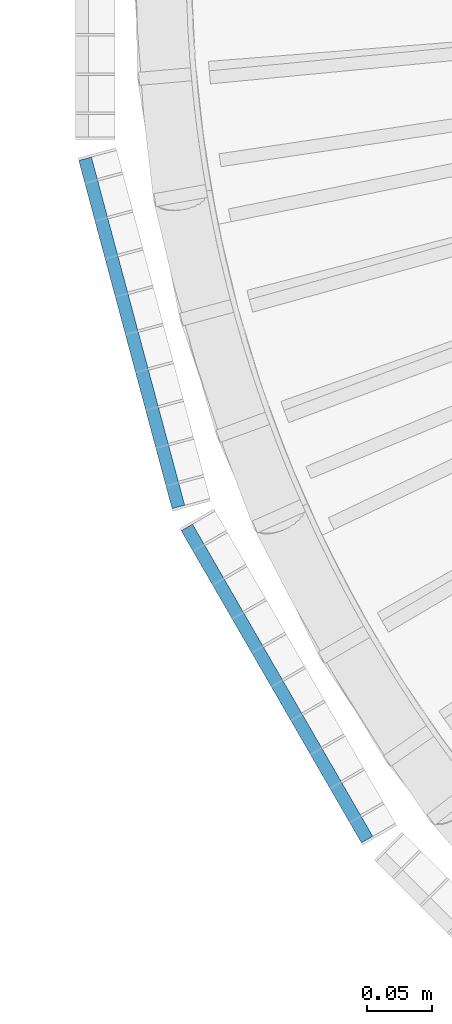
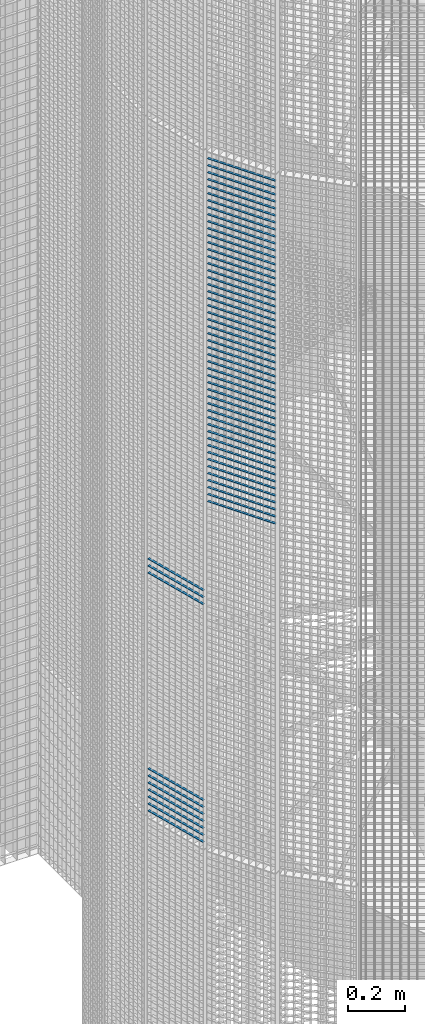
# One storey, part 350 of 1148: 60 beams, 2 elements without a shape of their own.
"""IFC2X3 building model written with IfcOpenShell, lengths in millimetres."""

import ifcopenshell
import ifcopenshell.guid

model = None  # the IFC model being written
_history = None  # IfcOwnerHistory: only IFC2X3 demands one
_inside = {}  # id of a spatial element -> (the spatial element, [elements in it])
_under = {}  # id of a project, library or spatial element -> (it, [spatial elements below it])
_declared = {}  # id of a project -> (the project, [libraries it declares])
_typed = {}  # id of a type object -> (the type object, [elements of that type])
_made_of = {}  # id of a material, layer set ... -> (it, [elements and type objects made of it])


def new_model(schema):
    """Start an empty IFC model of exactly this schema.

    Asked for "IFC4X3", IfcOpenShell would pick the latest addendum, in which some entities
    have other attributes; the version numbers below select the first issue.
    IFC2X3 requires an IfcOwnerHistory on every rooted entity: one is made here for all.
    """
    global model, _history
    if schema == "IFC4X3":
        model = ifcopenshell.file(schema_version=(4, 3, 0, 0))
    else:
        model = ifcopenshell.file(schema=schema)
    _inside.clear()
    _under.clear()
    _declared.clear()
    _typed.clear()
    _made_of.clear()
    _history = None
    if model.schema == "IFC2X3":
        org = make("IfcOrganization", Name="unknown")
        user = make(
            "IfcPersonAndOrganization",
            ThePerson=make("IfcPerson", FamilyName="unknown"),
            TheOrganization=org,
        )
        app = make(
            "IfcApplication",
            ApplicationDeveloper=org,
            Version="unknown",
            ApplicationFullName="unknown",
            ApplicationIdentifier="unknown",
        )
        _history = make(
            "IfcOwnerHistory",
            OwningUser=user,
            OwningApplication=app,
            ChangeAction="ADDED",
            CreationDate=0,
        )
    return model


def make(cls, **values):
    """One entity of the class cls with the attributes given. An attribute that is None is left unset."""
    return model.create_entity(
        cls, **{name: value for name, value in values.items() if value is not None}
    )


def rooted(cls, **values):
    """An entity with a GlobalId (a new one), such as an element, a storey or a relation."""
    return make(cls, GlobalId=ifcopenshell.guid.new(), OwnerHistory=_history, **values)


def si_unit(unit_type, name, prefix=None):
    """IfcSIUnit, for example si_unit("LENGTHUNIT", "METRE", prefix="MILLI")."""
    return make("IfcSIUnit", UnitType=unit_type, Prefix=prefix, Name=name)


def assignment(units):
    """IfcUnitAssignment: the units of a project."""
    return None if units is None else make("IfcUnitAssignment", Units=units)


def point(xyz):
    """IfcCartesianPoint."""
    return None if xyz is None else make("IfcCartesianPoint", Coordinates=xyz)


def direction(xyz):
    """IfcDirection."""
    return None if xyz is None else make("IfcDirection", DirectionRatios=xyz)


def frame(location, z_axis=None, x_axis=None):
    """IfcAxis2Placement3D, a coordinate frame: its origin and axes. An axis left out is left unset."""
    return make(
        "IfcAxis2Placement3D",
        Location=point(location),
        Axis=direction(z_axis),
        RefDirection=direction(x_axis),
    )


def frame_2d(location, x_axis=None):
    """IfcAxis2Placement2D, a coordinate frame in the plane: its origin and x axis."""
    return make(
        "IfcAxis2Placement2D", Location=point(location), RefDirection=direction(x_axis)
    )


def origin_with_axes():
    """The frame at (0, 0, 0) with the z axis (0, 0, 1) and the x axis (1, 0, 0) written out."""
    return frame((0.0, 0.0, 0.0), z_axis=(0.0, 0.0, 1.0), x_axis=(1.0, 0.0, 0.0))


def origin_2d_with_axis():
    """The frame at (0, 0) in the plane with the x axis (1, 0) written out."""
    return frame_2d((0.0, 0.0), x_axis=(1.0, 0.0))


def place(relative_to, where):
    """IfcLocalPlacement: puts the frame where relative to a parent placement (None: the world)."""
    return make(
        "IfcLocalPlacement", PlacementRelTo=relative_to, RelativePlacement=where
    )


def context(
    kind, dimensions, precision=None, world=None, true_north=None, identifier=None
):
    """IfcGeometricRepresentationContext, for example the 3D "Model" context."""
    return make(
        "IfcGeometricRepresentationContext",
        ContextIdentifier=identifier,
        ContextType=kind,
        CoordinateSpaceDimension=dimensions,
        Precision=precision,
        WorldCoordinateSystem=world,
        TrueNorth=true_north,
    )


def subcontext(parent, identifier, kind, view, scale=None):
    """IfcGeometricRepresentationSubContext, for example "Body" below "Model"."""
    return make(
        "IfcGeometricRepresentationSubContext",
        ContextIdentifier=identifier,
        ContextType=kind,
        ParentContext=parent,
        TargetScale=scale,
        TargetView=view,
    )


def project(units=None, contexts=None):
    """IfcProject with its units and contexts."""
    return rooted(
        "IfcProject",
        Name="project",
        RepresentationContexts=contexts,
        UnitsInContext=assignment(units),
    )


def spatial(cls, under=None, at=None, **own):
    """A site, building, storey or space (cls), placed at a placement, below another one or the project."""
    s = rooted(cls, ObjectPlacement=at, **own)
    if under is not None:
        _under.setdefault(under.id(), (under, []))[1].append(s)
    return s


def profile(cls, at=None, kind="AREA", **sizes):
    """A parametric profile (cls). Its sizes go by their IFC names, for example OverallWidth=200.0."""
    return make(cls, ProfileType=kind, Position=at, **sizes)


def rectangle(**sizes):
    """IfcRectangleProfileDef."""
    return profile("IfcRectangleProfileDef", **sizes)


def extrude(swept, where, along, depth):
    """IfcExtrudedAreaSolid: the profile swept, set in the frame where, extruded along a direction by depth."""
    return make(
        "IfcExtrudedAreaSolid",
        SweptArea=swept,
        Position=where,
        ExtrudedDirection=direction(along),
        Depth=depth,
    )


def shape(context_of_items, identifier, shape_type, items):
    """IfcShapeRepresentation: the items that make up one representation, for example the "Body"."""
    return make(
        "IfcShapeRepresentation",
        ContextOfItems=context_of_items,
        RepresentationIdentifier=identifier,
        RepresentationType=shape_type,
        Items=items,
    )


def material(Name=None, Category=None):
    """IfcMaterial."""
    return make("IfcMaterial", Name=Name, Category=Category)


def made_of(thing, what):
    """Note that an element or type object is made of a material, layer set ...; save() writes the relation."""
    if what is not None:
        _made_of.setdefault(what.id(), (what, []))[1].append(thing)
    return thing


def type_object(cls, material=None, **own):
    """A type object (cls), such as IfcWallType, which elements share."""
    return made_of(rooted(cls, **own), material)


def element(
    cls,
    number,
    at=None,
    inside=None,
    cuts=None,
    type_object=None,
    material=None,
    context=None,
    identifier="Body",
    shape_type=None,
    held_by="IfcProductDefinitionShape",
    body=None,
    shapes=None,
    **own,
):
    """One element of the class cls, such as IfcWall. Its Tag is "e" and its number.

    at: its placement. inside: the storey or other place that contains it. cuts: it is an
    opening in that element (IfcRelVoidsElement). A single representation is given by context,
    identifier, shape_type and body (its items); several are given by shapes. held_by: the class
    of the entity that holds the representations. save() writes the other relations.
    """
    e = rooted(cls, Tag="e%d" % number, ObjectPlacement=at, **own)
    if body is not None:
        shapes = [shape(context, identifier, shape_type, body)]
    if shapes is not None:
        e.Representation = make(held_by, Representations=shapes)
    if inside is not None:
        _inside.setdefault(inside.id(), (inside, []))[1].append(e)
    if cuts is not None:
        rooted(
            "IfcRelVoidsElement", RelatingBuildingElement=cuts, RelatedOpeningElement=e
        )
    if type_object is not None:
        _typed.setdefault(type_object.id(), (type_object, []))[1].append(e)
    return made_of(e, material)


def aggregate(whole, parts):
    """IfcRelAggregates: a whole, such as a stair, and the parts it consists of."""
    return rooted("IfcRelAggregates", RelatingObject=whole, RelatedObjects=parts)


def save(model, path):
    """Write the relations noted so far, then the file.

    IfcRelAggregates (storeys below a building ...), IfcRelContainedInSpatialStructure (elements
    in a storey), IfcRelDefinesByType, IfcRelAssociatesMaterial and IfcRelDeclares: one each for
    every whole, place, type object, material and project.
    """
    for whole, parts in _under.values():
        aggregate(whole, parts)
    for where, things in _inside.values():
        rooted(
            "IfcRelContainedInSpatialStructure",
            RelatedElements=things,
            RelatingStructure=where,
        )
    for kind, things in _typed.values():
        rooted("IfcRelDefinesByType", RelatedObjects=things, RelatingType=kind)
    for what, things in _made_of.values():
        rooted("IfcRelAssociatesMaterial", RelatedObjects=things, RelatingMaterial=what)
    for by, libraries in _declared.values():
        rooted("IfcRelDeclares", RelatingContext=by, RelatedDefinitions=libraries)
    model.write(path)


model = new_model("IFC2X3")

# Units and contexts
model_context = context("Model", 3, precision=1e-05, world=origin_with_axes())
body_context = subcontext(model_context, "Body", "Model", "MODEL_VIEW")
ifc_project = project(units=[si_unit("LENGTHUNIT", "METRE", prefix="MILLI"), si_unit("AREAUNIT", "SQUARE_METRE"), si_unit("VOLUMEUNIT", "CUBIC_METRE"), si_unit("MASSUNIT", "GRAM", prefix="KILO"), si_unit("TIMEUNIT", "SECOND"), si_unit("PLANEANGLEUNIT", "RADIAN"), si_unit("SOLIDANGLEUNIT", "STERADIAN"), si_unit("THERMODYNAMICTEMPERATUREUNIT", "DEGREE_CELSIUS"), si_unit("LUMINOUSINTENSITYUNIT", "LUMEN")], contexts=[model_context])

# Site, building, storey
site_placement = place(None, origin_with_axes())
site = spatial("IfcSite", under=ifc_project, at=site_placement, Name="Undefined", CompositionType="ELEMENT")
building_placement = place(site_placement, origin_with_axes())
building = spatial("IfcBuilding", under=site, at=building_placement, Name="Undefined", CompositionType="ELEMENT")
storey_placement = place(building_placement, origin_with_axes())
storey = spatial("IfcBuildingStorey", under=building, at=storey_placement, Name="Undefined", CompositionType="ELEMENT", Elevation=0.0)

# Assembly, beams
assembly_1_placement = place(storey_placement, origin_with_axes())
assembly_1 = element("IfcElementAssembly", 1, at=assembly_1_placement, inside=storey, Name="BORDURE", AssemblyPlace="NOTDEFINED", PredefinedType="NOTDEFINED")
ifc_material = material(Name="STEEL/S235JR")
beam_type = type_object("IfcBeamType", Name="PL2*10", PredefinedType="NOTDEFINED")
beam_1_placement = place(assembly_1_placement, frame((20560.1769047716, -421.483733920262, 6210.0), z_axis=(-0.965925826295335, -0.258819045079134, 0.0), x_axis=(-0.258819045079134, 0.965925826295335, 0.0)))
beam_1 = element("IfcBeam", 2, at=beam_1_placement, type_object=beam_type, material=ifc_material, Name="ENTRETOISE", context=body_context, shape_type="SweptSolid", body=[
    extrude(rectangle(XDim=2.0, YDim=10.0, at=origin_2d_with_axis()), frame((275.999999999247, 9.09494701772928e-13, 1.53210777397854e-14), z_axis=(-1.0, 0.0, 0.0), x_axis=(0.0, -1.0, 0.0)), (0.0, 0.0, 1.0), 276.0),
])
beam_2_placement = place(assembly_1_placement, frame((20560.1769047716, -421.483733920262, 6180.0), z_axis=(-0.965925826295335, -0.258819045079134, 0.0), x_axis=(-0.258819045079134, 0.965925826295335, 0.0)))
beam_2 = element("IfcBeam", 3, at=beam_2_placement, type_object=beam_type, material=ifc_material, Name="ENTRETOISE", context=body_context, shape_type="SweptSolid", body=[
    extrude(rectangle(XDim=2.0, YDim=10.0, at=origin_2d_with_axis()), frame((275.999999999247, 9.09494701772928e-13, 1.53210777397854e-14), z_axis=(-1.0, 0.0, 0.0), x_axis=(0.0, -1.0, 0.0)), (0.0, 0.0, 1.0), 276.0),
])
beam_3_placement = place(assembly_1_placement, frame((20560.1769047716, -421.483733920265, 7050.0), z_axis=(-0.965925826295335, -0.258819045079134, 0.0), x_axis=(-0.258819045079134, 0.965925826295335, 0.0)))
beam_3 = element("IfcBeam", 4, at=beam_3_placement, type_object=beam_type, material=ifc_material, Name="ENTRETOISE", context=body_context, shape_type="SweptSolid", body=[
    extrude(rectangle(XDim=2.0, YDim=10.0, at=origin_2d_with_axis()), frame((275.999999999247, 9.09494701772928e-13, 1.53210777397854e-14), z_axis=(-1.0, 0.0, 0.0), x_axis=(0.0, -1.0, 0.0)), (0.0, 0.0, 1.0), 276.0),
])
beam_4_placement = place(assembly_1_placement, frame((20560.1769047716, -421.483733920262, 6150.0), z_axis=(-0.965925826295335, -0.258819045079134, 0.0), x_axis=(-0.258819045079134, 0.965925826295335, 0.0)))
beam_4 = element("IfcBeam", 5, at=beam_4_placement, type_object=beam_type, material=ifc_material, Name="ENTRETOISE", context=body_context, shape_type="SweptSolid", body=[
    extrude(rectangle(XDim=2.0, YDim=10.0, at=origin_2d_with_axis()), frame((275.999999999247, 9.09494701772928e-13, 1.53210777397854e-14), z_axis=(-1.0, 0.0, 0.0), x_axis=(0.0, -1.0, 0.0)), (0.0, 0.0, 1.0), 276.0),
])
beam_5_placement = place(assembly_1_placement, frame((20560.1769047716, -421.483733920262, 6120.0), z_axis=(-0.965925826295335, -0.258819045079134, 0.0), x_axis=(-0.258819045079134, 0.965925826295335, 0.0)))
beam_5 = element("IfcBeam", 6, at=beam_5_placement, type_object=beam_type, material=ifc_material, Name="ENTRETOISE", context=body_context, shape_type="SweptSolid", body=[
    extrude(rectangle(XDim=2.0, YDim=10.0, at=origin_2d_with_axis()), frame((275.999999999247, 9.09494701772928e-13, 1.53210777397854e-14), z_axis=(-1.0, 0.0, 0.0), x_axis=(0.0, -1.0, 0.0)), (0.0, 0.0, 1.0), 276.0),
])
beam_6_placement = place(assembly_1_placement, frame((20560.1769047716, -421.483733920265, 7080.0), z_axis=(-0.965925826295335, -0.258819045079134, 0.0), x_axis=(-0.258819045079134, 0.965925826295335, 0.0)))
beam_6 = element("IfcBeam", 7, at=beam_6_placement, type_object=beam_type, material=ifc_material, Name="ENTRETOISE", context=body_context, shape_type="SweptSolid", body=[
    extrude(rectangle(XDim=2.0, YDim=10.0, at=origin_2d_with_axis()), frame((275.999999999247, 9.09494701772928e-13, 1.53210777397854e-14), z_axis=(-1.0, 0.0, 0.0), x_axis=(0.0, -1.0, 0.0)), (0.0, 0.0, 1.0), 276.0),
])
beam_7_placement = place(assembly_1_placement, frame((20560.1769047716, -421.483733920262, 6090.0), z_axis=(-0.965925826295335, -0.258819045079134, 0.0), x_axis=(-0.258819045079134, 0.965925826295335, 0.0)))
beam_7 = element("IfcBeam", 8, at=beam_7_placement, type_object=beam_type, material=ifc_material, Name="ENTRETOISE", context=body_context, shape_type="SweptSolid", body=[
    extrude(rectangle(XDim=2.0, YDim=10.0, at=origin_2d_with_axis()), frame((275.999999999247, 9.09494701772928e-13, 1.53210777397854e-14), z_axis=(-1.0, 0.0, 0.0), x_axis=(0.0, -1.0, 0.0)), (0.0, 0.0, 1.0), 276.0),
])
beam_8_placement = place(assembly_1_placement, frame((20560.1769047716, -421.483733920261, 6060.0), z_axis=(-0.965925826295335, -0.258819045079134, 0.0), x_axis=(-0.258819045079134, 0.965925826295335, 0.0)))
beam_8 = element("IfcBeam", 9, at=beam_8_placement, type_object=beam_type, material=ifc_material, Name="ENTRETOISE", context=body_context, shape_type="SweptSolid", body=[
    extrude(rectangle(XDim=2.0, YDim=10.0, at=origin_2d_with_axis()), frame((275.999999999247, 9.09494701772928e-13, 1.53210777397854e-14), z_axis=(-1.0, 0.0, 0.0), x_axis=(0.0, -1.0, 0.0)), (0.0, 0.0, 1.0), 276.0),
])
beam_9_placement = place(assembly_1_placement, frame((20560.1769047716, -421.483733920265, 7110.0), z_axis=(-0.965925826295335, -0.258819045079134, 0.0), x_axis=(-0.258819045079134, 0.965925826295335, 0.0)))
beam_9 = element("IfcBeam", 10, at=beam_9_placement, type_object=beam_type, material=ifc_material, Name="ENTRETOISE", context=body_context, shape_type="SweptSolid", body=[
    extrude(rectangle(XDim=2.0, YDim=10.0, at=origin_2d_with_axis()), frame((275.999999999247, 9.09494701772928e-13, 1.53210777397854e-14), z_axis=(-1.0, 0.0, 0.0), x_axis=(0.0, -1.0, 0.0)), (0.0, 0.0, 1.0), 276.0),
])
beam_10_placement = place(assembly_1_placement, frame((20560.1769047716, -421.48373392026, 6030.0), z_axis=(-0.965925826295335, -0.258819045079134, 0.0), x_axis=(-0.258819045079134, 0.965925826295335, 0.0)))
beam_10 = element("IfcBeam", 11, at=beam_10_placement, type_object=beam_type, material=ifc_material, Name="ENTRETOISE", context=body_context, shape_type="SweptSolid", body=[
    extrude(rectangle(XDim=2.0, YDim=10.0, at=origin_2d_with_axis()), frame((275.999999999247, 9.09494701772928e-13, 1.53210777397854e-14), z_axis=(-1.0, 0.0, 0.0), x_axis=(0.0, -1.0, 0.0)), (0.0, 0.0, 1.0), 276.0),
])
aggregate(assembly_1, [beam_1, beam_2, beam_3, beam_4, beam_5, beam_6, beam_7, beam_8, beam_9, beam_10])

assembly_2_placement = place(storey_placement, origin_with_axes())
assembly_2 = element("IfcElementAssembly", 12, at=assembly_2_placement, inside=storey, Name="BORDURE", AssemblyPlace="NOTDEFINED", PredefinedType="NOTDEFINED")
beam_11_placement = place(assembly_2_placement, frame((20704.6960350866, -676.248044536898, 8970.0), z_axis=(-0.866025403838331, -0.499999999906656, 0.0), x_axis=(-0.49999999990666, 0.866025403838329, 0.0)))
beam_11 = element("IfcBeam", 13, at=beam_11_placement, type_object=beam_type, material=ifc_material, Name="ENTRETOISE", context=body_context, shape_type="SweptSolid", body=[
    extrude(rectangle(XDim=2.0, YDim=10.0, at=origin_2d_with_axis()), frame((275.999999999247, 9.09494701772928e-13, 1.53210777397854e-14), z_axis=(-1.0, 0.0, 0.0), x_axis=(0.0, -1.0, 0.0)), (0.0, 0.0, 1.0), 276.0),
])
beam_12_placement = place(assembly_2_placement, frame((20704.6960350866, -676.248044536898, 8940.0), z_axis=(-0.866025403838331, -0.499999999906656, 0.0), x_axis=(-0.49999999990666, 0.866025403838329, 0.0)))
beam_12 = element("IfcBeam", 14, at=beam_12_placement, type_object=beam_type, material=ifc_material, Name="ENTRETOISE", context=body_context, shape_type="SweptSolid", body=[
    extrude(rectangle(XDim=2.0, YDim=10.0, at=origin_2d_with_axis()), frame((275.999999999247, 9.09494701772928e-13, 1.53210777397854e-14), z_axis=(-1.0, 0.0, 0.0), x_axis=(0.0, -1.0, 0.0)), (0.0, 0.0, 1.0), 276.0),
])
beam_13_placement = place(assembly_2_placement, frame((20704.6960350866, -676.248044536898, 8910.0), z_axis=(-0.866025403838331, -0.499999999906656, 0.0), x_axis=(-0.49999999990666, 0.866025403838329, 0.0)))
beam_13 = element("IfcBeam", 15, at=beam_13_placement, type_object=beam_type, material=ifc_material, Name="ENTRETOISE", context=body_context, shape_type="SweptSolid", body=[
    extrude(rectangle(XDim=2.0, YDim=10.0, at=origin_2d_with_axis()), frame((275.999999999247, 9.09494701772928e-13, 1.53210777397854e-14), z_axis=(-1.0, 0.0, 0.0), x_axis=(0.0, -1.0, 0.0)), (0.0, 0.0, 1.0), 276.0),
])
beam_14_placement = place(assembly_2_placement, frame((20704.6960350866, -676.248044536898, 8880.0), z_axis=(-0.866025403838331, -0.499999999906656, 0.0), x_axis=(-0.49999999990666, 0.866025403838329, 0.0)))
beam_14 = element("IfcBeam", 16, at=beam_14_placement, type_object=beam_type, material=ifc_material, Name="ENTRETOISE", context=body_context, shape_type="SweptSolid", body=[
    extrude(rectangle(XDim=2.0, YDim=10.0, at=origin_2d_with_axis()), frame((275.999999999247, 9.09494701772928e-13, 1.53210777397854e-14), z_axis=(-1.0, 0.0, 0.0), x_axis=(0.0, -1.0, 0.0)), (0.0, 0.0, 1.0), 276.0),
])
beam_15_placement = place(assembly_2_placement, frame((20704.6960350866, -676.248044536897, 8850.0), z_axis=(-0.866025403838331, -0.499999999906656, 0.0), x_axis=(-0.49999999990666, 0.866025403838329, 0.0)))
beam_15 = element("IfcBeam", 17, at=beam_15_placement, type_object=beam_type, material=ifc_material, Name="ENTRETOISE", context=body_context, shape_type="SweptSolid", body=[
    extrude(rectangle(XDim=2.0, YDim=10.0, at=origin_2d_with_axis()), frame((275.999999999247, 9.09494701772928e-13, 1.53210777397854e-14), z_axis=(-1.0, 0.0, 0.0), x_axis=(0.0, -1.0, 0.0)), (0.0, 0.0, 1.0), 276.0),
])
beam_16_placement = place(assembly_2_placement, frame((20704.6960350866, -676.248044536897, 8820.0), z_axis=(-0.866025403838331, -0.499999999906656, 0.0), x_axis=(-0.49999999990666, 0.866025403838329, 0.0)))
beam_16 = element("IfcBeam", 18, at=beam_16_placement, type_object=beam_type, material=ifc_material, Name="ENTRETOISE", context=body_context, shape_type="SweptSolid", body=[
    extrude(rectangle(XDim=2.0, YDim=10.0, at=origin_2d_with_axis()), frame((275.999999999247, 9.09494701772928e-13, 1.53210777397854e-14), z_axis=(-1.0, 0.0, 0.0), x_axis=(0.0, -1.0, 0.0)), (0.0, 0.0, 1.0), 276.0),
])
beam_17_placement = place(assembly_2_placement, frame((20704.6960350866, -676.248044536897, 8790.0), z_axis=(-0.866025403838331, -0.499999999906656, 0.0), x_axis=(-0.49999999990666, 0.866025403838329, 0.0)))
beam_17 = element("IfcBeam", 19, at=beam_17_placement, type_object=beam_type, material=ifc_material, Name="ENTRETOISE", context=body_context, shape_type="SweptSolid", body=[
    extrude(rectangle(XDim=2.0, YDim=10.0, at=origin_2d_with_axis()), frame((275.999999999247, 9.09494701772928e-13, 1.53210777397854e-14), z_axis=(-1.0, 0.0, 0.0), x_axis=(0.0, -1.0, 0.0)), (0.0, 0.0, 1.0), 276.0),
])
beam_18_placement = place(assembly_2_placement, frame((20704.6960350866, -676.248044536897, 8760.0), z_axis=(-0.866025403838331, -0.499999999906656, 0.0), x_axis=(-0.49999999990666, 0.866025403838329, 0.0)))
beam_18 = element("IfcBeam", 20, at=beam_18_placement, type_object=beam_type, material=ifc_material, Name="ENTRETOISE", context=body_context, shape_type="SweptSolid", body=[
    extrude(rectangle(XDim=2.0, YDim=10.0, at=origin_2d_with_axis()), frame((275.999999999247, 9.09494701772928e-13, 1.53210777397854e-14), z_axis=(-1.0, 0.0, 0.0), x_axis=(0.0, -1.0, 0.0)), (0.0, 0.0, 1.0), 276.0),
])
beam_19_placement = place(assembly_2_placement, frame((20704.6960350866, -676.248044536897, 8730.0), z_axis=(-0.866025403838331, -0.499999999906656, 0.0), x_axis=(-0.49999999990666, 0.866025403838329, 0.0)))
beam_19 = element("IfcBeam", 21, at=beam_19_placement, type_object=beam_type, material=ifc_material, Name="ENTRETOISE", context=body_context, shape_type="SweptSolid", body=[
    extrude(rectangle(XDim=2.0, YDim=10.0, at=origin_2d_with_axis()), frame((275.999999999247, 9.09494701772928e-13, 1.53210777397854e-14), z_axis=(-1.0, 0.0, 0.0), x_axis=(0.0, -1.0, 0.0)), (0.0, 0.0, 1.0), 276.0),
])
beam_20_placement = place(assembly_2_placement, frame((20704.6960350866, -676.248044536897, 8700.0), z_axis=(-0.866025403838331, -0.499999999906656, 0.0), x_axis=(-0.49999999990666, 0.866025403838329, 0.0)))
beam_20 = element("IfcBeam", 22, at=beam_20_placement, type_object=beam_type, material=ifc_material, Name="ENTRETOISE", context=body_context, shape_type="SweptSolid", body=[
    extrude(rectangle(XDim=2.0, YDim=10.0, at=origin_2d_with_axis()), frame((275.999999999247, 9.09494701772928e-13, 1.53210777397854e-14), z_axis=(-1.0, 0.0, 0.0), x_axis=(0.0, -1.0, 0.0)), (0.0, 0.0, 1.0), 276.0),
])
beam_21_placement = place(assembly_2_placement, frame((20704.6960350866, -676.248044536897, 8670.0), z_axis=(-0.866025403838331, -0.499999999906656, 0.0), x_axis=(-0.49999999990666, 0.866025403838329, 0.0)))
beam_21 = element("IfcBeam", 23, at=beam_21_placement, type_object=beam_type, material=ifc_material, Name="ENTRETOISE", context=body_context, shape_type="SweptSolid", body=[
    extrude(rectangle(XDim=2.0, YDim=10.0, at=origin_2d_with_axis()), frame((275.999999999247, 9.09494701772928e-13, 1.53210777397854e-14), z_axis=(-1.0, 0.0, 0.0), x_axis=(0.0, -1.0, 0.0)), (0.0, 0.0, 1.0), 276.0),
])
beam_22_placement = place(assembly_2_placement, frame((20704.6960350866, -676.248044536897, 8640.0), z_axis=(-0.866025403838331, -0.499999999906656, 0.0), x_axis=(-0.49999999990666, 0.866025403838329, 0.0)))
beam_22 = element("IfcBeam", 24, at=beam_22_placement, type_object=beam_type, material=ifc_material, Name="ENTRETOISE", context=body_context, shape_type="SweptSolid", body=[
    extrude(rectangle(XDim=2.0, YDim=10.0, at=origin_2d_with_axis()), frame((275.999999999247, 9.09494701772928e-13, 1.53210777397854e-14), z_axis=(-1.0, 0.0, 0.0), x_axis=(0.0, -1.0, 0.0)), (0.0, 0.0, 1.0), 276.0),
])
beam_23_placement = place(assembly_2_placement, frame((20704.6960350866, -676.248044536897, 8610.0), z_axis=(-0.866025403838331, -0.499999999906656, 0.0), x_axis=(-0.49999999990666, 0.866025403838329, 0.0)))
beam_23 = element("IfcBeam", 25, at=beam_23_placement, type_object=beam_type, material=ifc_material, Name="ENTRETOISE", context=body_context, shape_type="SweptSolid", body=[
    extrude(rectangle(XDim=2.0, YDim=10.0, at=origin_2d_with_axis()), frame((275.999999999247, 9.09494701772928e-13, 1.53210777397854e-14), z_axis=(-1.0, 0.0, 0.0), x_axis=(0.0, -1.0, 0.0)), (0.0, 0.0, 1.0), 276.0),
])
beam_24_placement = place(assembly_2_placement, frame((20704.6960350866, -676.248044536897, 8580.0), z_axis=(-0.866025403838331, -0.499999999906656, 0.0), x_axis=(-0.49999999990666, 0.866025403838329, 0.0)))
beam_24 = element("IfcBeam", 26, at=beam_24_placement, type_object=beam_type, material=ifc_material, Name="ENTRETOISE", context=body_context, shape_type="SweptSolid", body=[
    extrude(rectangle(XDim=2.0, YDim=10.0, at=origin_2d_with_axis()), frame((275.999999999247, 9.09494701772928e-13, 1.53210777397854e-14), z_axis=(-1.0, 0.0, 0.0), x_axis=(0.0, -1.0, 0.0)), (0.0, 0.0, 1.0), 276.0),
])
beam_25_placement = place(assembly_2_placement, frame((20704.6960350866, -676.248044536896, 8550.0), z_axis=(-0.866025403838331, -0.499999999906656, 0.0), x_axis=(-0.49999999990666, 0.866025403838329, 0.0)))
beam_25 = element("IfcBeam", 27, at=beam_25_placement, type_object=beam_type, material=ifc_material, Name="ENTRETOISE", context=body_context, shape_type="SweptSolid", body=[
    extrude(rectangle(XDim=2.0, YDim=10.0, at=origin_2d_with_axis()), frame((275.999999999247, 9.09494701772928e-13, 1.53210777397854e-14), z_axis=(-1.0, 0.0, 0.0), x_axis=(0.0, -1.0, 0.0)), (0.0, 0.0, 1.0), 276.0),
])
beam_26_placement = place(assembly_2_placement, frame((20704.6960350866, -676.248044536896, 8520.0), z_axis=(-0.866025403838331, -0.499999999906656, 0.0), x_axis=(-0.49999999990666, 0.866025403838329, 0.0)))
beam_26 = element("IfcBeam", 28, at=beam_26_placement, type_object=beam_type, material=ifc_material, Name="ENTRETOISE", context=body_context, shape_type="SweptSolid", body=[
    extrude(rectangle(XDim=2.0, YDim=10.0, at=origin_2d_with_axis()), frame((275.999999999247, 9.09494701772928e-13, 1.53210777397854e-14), z_axis=(-1.0, 0.0, 0.0), x_axis=(0.0, -1.0, 0.0)), (0.0, 0.0, 1.0), 276.0),
])
beam_27_placement = place(assembly_2_placement, frame((20704.6960350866, -676.248044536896, 8490.0), z_axis=(-0.866025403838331, -0.499999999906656, 0.0), x_axis=(-0.49999999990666, 0.866025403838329, 0.0)))
beam_27 = element("IfcBeam", 29, at=beam_27_placement, type_object=beam_type, material=ifc_material, Name="ENTRETOISE", context=body_context, shape_type="SweptSolid", body=[
    extrude(rectangle(XDim=2.0, YDim=10.0, at=origin_2d_with_axis()), frame((275.999999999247, 9.09494701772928e-13, 1.53210777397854e-14), z_axis=(-1.0, 0.0, 0.0), x_axis=(0.0, -1.0, 0.0)), (0.0, 0.0, 1.0), 276.0),
])
beam_28_placement = place(assembly_2_placement, frame((20704.6960350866, -676.248044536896, 8460.0), z_axis=(-0.866025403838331, -0.499999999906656, 0.0), x_axis=(-0.49999999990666, 0.866025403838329, 0.0)))
beam_28 = element("IfcBeam", 30, at=beam_28_placement, type_object=beam_type, material=ifc_material, Name="ENTRETOISE", context=body_context, shape_type="SweptSolid", body=[
    extrude(rectangle(XDim=2.0, YDim=10.0, at=origin_2d_with_axis()), frame((275.999999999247, 9.09494701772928e-13, 1.53210777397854e-14), z_axis=(-1.0, 0.0, 0.0), x_axis=(0.0, -1.0, 0.0)), (0.0, 0.0, 1.0), 276.0),
])
beam_29_placement = place(assembly_2_placement, frame((20704.6960350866, -676.248044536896, 8430.0), z_axis=(-0.866025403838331, -0.499999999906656, 0.0), x_axis=(-0.49999999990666, 0.866025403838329, 0.0)))
beam_29 = element("IfcBeam", 31, at=beam_29_placement, type_object=beam_type, material=ifc_material, Name="ENTRETOISE", context=body_context, shape_type="SweptSolid", body=[
    extrude(rectangle(XDim=2.0, YDim=10.0, at=origin_2d_with_axis()), frame((275.999999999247, 9.09494701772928e-13, 1.53210777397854e-14), z_axis=(-1.0, 0.0, 0.0), x_axis=(0.0, -1.0, 0.0)), (0.0, 0.0, 1.0), 276.0),
])
beam_30_placement = place(assembly_2_placement, frame((20704.6960350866, -676.248044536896, 8400.0), z_axis=(-0.866025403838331, -0.499999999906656, 0.0), x_axis=(-0.49999999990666, 0.866025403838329, 0.0)))
beam_30 = element("IfcBeam", 32, at=beam_30_placement, type_object=beam_type, material=ifc_material, Name="ENTRETOISE", context=body_context, shape_type="SweptSolid", body=[
    extrude(rectangle(XDim=2.0, YDim=10.0, at=origin_2d_with_axis()), frame((275.999999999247, 9.09494701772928e-13, 1.53210777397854e-14), z_axis=(-1.0, 0.0, 0.0), x_axis=(0.0, -1.0, 0.0)), (0.0, 0.0, 1.0), 276.0),
])
beam_31_placement = place(assembly_2_placement, frame((20704.6960350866, -676.248044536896, 8370.0), z_axis=(-0.866025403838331, -0.499999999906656, 0.0), x_axis=(-0.49999999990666, 0.866025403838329, 0.0)))
beam_31 = element("IfcBeam", 33, at=beam_31_placement, type_object=beam_type, material=ifc_material, Name="ENTRETOISE", context=body_context, shape_type="SweptSolid", body=[
    extrude(rectangle(XDim=2.0, YDim=10.0, at=origin_2d_with_axis()), frame((275.999999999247, 9.09494701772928e-13, 1.53210777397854e-14), z_axis=(-1.0, 0.0, 0.0), x_axis=(0.0, -1.0, 0.0)), (0.0, 0.0, 1.0), 276.0),
])
beam_32_placement = place(assembly_2_placement, frame((20704.6960350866, -676.248044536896, 8340.0), z_axis=(-0.866025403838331, -0.499999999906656, 0.0), x_axis=(-0.49999999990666, 0.866025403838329, 0.0)))
beam_32 = element("IfcBeam", 34, at=beam_32_placement, type_object=beam_type, material=ifc_material, Name="ENTRETOISE", context=body_context, shape_type="SweptSolid", body=[
    extrude(rectangle(XDim=2.0, YDim=10.0, at=origin_2d_with_axis()), frame((275.999999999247, 9.09494701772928e-13, 1.53210777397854e-14), z_axis=(-1.0, 0.0, 0.0), x_axis=(0.0, -1.0, 0.0)), (0.0, 0.0, 1.0), 276.0),
])
beam_33_placement = place(assembly_2_placement, frame((20704.6960350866, -676.248044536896, 8310.0), z_axis=(-0.866025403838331, -0.499999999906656, 0.0), x_axis=(-0.49999999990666, 0.866025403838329, 0.0)))
beam_33 = element("IfcBeam", 35, at=beam_33_placement, type_object=beam_type, material=ifc_material, Name="ENTRETOISE", context=body_context, shape_type="SweptSolid", body=[
    extrude(rectangle(XDim=2.0, YDim=10.0, at=origin_2d_with_axis()), frame((275.999999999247, 9.09494701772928e-13, 1.53210777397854e-14), z_axis=(-1.0, 0.0, 0.0), x_axis=(0.0, -1.0, 0.0)), (0.0, 0.0, 1.0), 276.0),
])
beam_34_placement = place(assembly_2_placement, frame((20704.6960350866, -676.248044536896, 8280.0), z_axis=(-0.866025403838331, -0.499999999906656, 0.0), x_axis=(-0.49999999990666, 0.866025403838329, 0.0)))
beam_34 = element("IfcBeam", 36, at=beam_34_placement, type_object=beam_type, material=ifc_material, Name="ENTRETOISE", context=body_context, shape_type="SweptSolid", body=[
    extrude(rectangle(XDim=2.0, YDim=10.0, at=origin_2d_with_axis()), frame((275.999999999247, 9.09494701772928e-13, 1.53210777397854e-14), z_axis=(-1.0, 0.0, 0.0), x_axis=(0.0, -1.0, 0.0)), (0.0, 0.0, 1.0), 276.0),
])
beam_35_placement = place(assembly_2_placement, frame((20704.6960350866, -676.248044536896, 8250.0), z_axis=(-0.866025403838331, -0.499999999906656, 0.0), x_axis=(-0.49999999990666, 0.866025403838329, 0.0)))
beam_35 = element("IfcBeam", 37, at=beam_35_placement, type_object=beam_type, material=ifc_material, Name="ENTRETOISE", context=body_context, shape_type="SweptSolid", body=[
    extrude(rectangle(XDim=2.0, YDim=10.0, at=origin_2d_with_axis()), frame((275.999999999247, 9.09494701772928e-13, 1.53210777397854e-14), z_axis=(-1.0, 0.0, 0.0), x_axis=(0.0, -1.0, 0.0)), (0.0, 0.0, 1.0), 276.0),
])
beam_36_placement = place(assembly_2_placement, frame((20704.6960350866, -676.248044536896, 8220.0), z_axis=(-0.866025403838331, -0.499999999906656, 0.0), x_axis=(-0.49999999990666, 0.866025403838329, 0.0)))
beam_36 = element("IfcBeam", 38, at=beam_36_placement, type_object=beam_type, material=ifc_material, Name="ENTRETOISE", context=body_context, shape_type="SweptSolid", body=[
    extrude(rectangle(XDim=2.0, YDim=10.0, at=origin_2d_with_axis()), frame((275.999999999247, 9.09494701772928e-13, 1.53210777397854e-14), z_axis=(-1.0, 0.0, 0.0), x_axis=(0.0, -1.0, 0.0)), (0.0, 0.0, 1.0), 276.0),
])
beam_37_placement = place(assembly_2_placement, frame((20704.6960350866, -676.248044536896, 8190.0), z_axis=(-0.866025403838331, -0.499999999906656, 0.0), x_axis=(-0.49999999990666, 0.866025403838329, 0.0)))
beam_37 = element("IfcBeam", 39, at=beam_37_placement, type_object=beam_type, material=ifc_material, Name="ENTRETOISE", context=body_context, shape_type="SweptSolid", body=[
    extrude(rectangle(XDim=2.0, YDim=10.0, at=origin_2d_with_axis()), frame((275.999999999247, 9.09494701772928e-13, 1.53210777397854e-14), z_axis=(-1.0, 0.0, 0.0), x_axis=(0.0, -1.0, 0.0)), (0.0, 0.0, 1.0), 276.0),
])
beam_38_placement = place(assembly_2_placement, frame((20704.6960350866, -676.248044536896, 8160.0), z_axis=(-0.866025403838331, -0.499999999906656, 0.0), x_axis=(-0.49999999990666, 0.866025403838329, 0.0)))
beam_38 = element("IfcBeam", 40, at=beam_38_placement, type_object=beam_type, material=ifc_material, Name="ENTRETOISE", context=body_context, shape_type="SweptSolid", body=[
    extrude(rectangle(XDim=2.0, YDim=10.0, at=origin_2d_with_axis()), frame((275.999999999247, 9.09494701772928e-13, 1.53210777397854e-14), z_axis=(-1.0, 0.0, 0.0), x_axis=(0.0, -1.0, 0.0)), (0.0, 0.0, 1.0), 276.0),
])
beam_39_placement = place(assembly_2_placement, frame((20704.6960350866, -676.248044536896, 8130.0), z_axis=(-0.866025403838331, -0.499999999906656, 0.0), x_axis=(-0.49999999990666, 0.866025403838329, 0.0)))
beam_39 = element("IfcBeam", 41, at=beam_39_placement, type_object=beam_type, material=ifc_material, Name="ENTRETOISE", context=body_context, shape_type="SweptSolid", body=[
    extrude(rectangle(XDim=2.0, YDim=10.0, at=origin_2d_with_axis()), frame((275.999999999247, 9.09494701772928e-13, 1.53210777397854e-14), z_axis=(-1.0, 0.0, 0.0), x_axis=(0.0, -1.0, 0.0)), (0.0, 0.0, 1.0), 276.0),
])
beam_40_placement = place(assembly_2_placement, frame((20704.6960350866, -676.248044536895, 8100.0), z_axis=(-0.866025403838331, -0.499999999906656, 0.0), x_axis=(-0.49999999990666, 0.866025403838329, 0.0)))
beam_40 = element("IfcBeam", 42, at=beam_40_placement, type_object=beam_type, material=ifc_material, Name="ENTRETOISE", context=body_context, shape_type="SweptSolid", body=[
    extrude(rectangle(XDim=2.0, YDim=10.0, at=origin_2d_with_axis()), frame((275.999999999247, 9.09494701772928e-13, 1.53210777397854e-14), z_axis=(-1.0, 0.0, 0.0), x_axis=(0.0, -1.0, 0.0)), (0.0, 0.0, 1.0), 276.0),
])
beam_41_placement = place(assembly_2_placement, frame((20704.6960350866, -676.248044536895, 8070.0), z_axis=(-0.866025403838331, -0.499999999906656, 0.0), x_axis=(-0.49999999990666, 0.866025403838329, 0.0)))
beam_41 = element("IfcBeam", 43, at=beam_41_placement, type_object=beam_type, material=ifc_material, Name="ENTRETOISE", context=body_context, shape_type="SweptSolid", body=[
    extrude(rectangle(XDim=2.0, YDim=10.0, at=origin_2d_with_axis()), frame((275.999999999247, 9.09494701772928e-13, 1.53210777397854e-14), z_axis=(-1.0, 0.0, 0.0), x_axis=(0.0, -1.0, 0.0)), (0.0, 0.0, 1.0), 276.0),
])
beam_42_placement = place(assembly_2_placement, frame((20704.6960350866, -676.248044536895, 8040.0), z_axis=(-0.866025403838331, -0.499999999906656, 0.0), x_axis=(-0.49999999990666, 0.866025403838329, 0.0)))
beam_42 = element("IfcBeam", 44, at=beam_42_placement, type_object=beam_type, material=ifc_material, Name="ENTRETOISE", context=body_context, shape_type="SweptSolid", body=[
    extrude(rectangle(XDim=2.0, YDim=10.0, at=origin_2d_with_axis()), frame((275.999999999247, 9.09494701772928e-13, 1.53210777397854e-14), z_axis=(-1.0, 0.0, 0.0), x_axis=(0.0, -1.0, 0.0)), (0.0, 0.0, 1.0), 276.0),
])
beam_43_placement = place(assembly_2_placement, frame((20704.6960350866, -676.248044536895, 8010.0), z_axis=(-0.866025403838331, -0.499999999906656, 0.0), x_axis=(-0.49999999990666, 0.866025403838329, 0.0)))
beam_43 = element("IfcBeam", 45, at=beam_43_placement, type_object=beam_type, material=ifc_material, Name="ENTRETOISE", context=body_context, shape_type="SweptSolid", body=[
    extrude(rectangle(XDim=2.0, YDim=10.0, at=origin_2d_with_axis()), frame((275.999999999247, 9.09494701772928e-13, 1.53210777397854e-14), z_axis=(-1.0, 0.0, 0.0), x_axis=(0.0, -1.0, 0.0)), (0.0, 0.0, 1.0), 276.0),
])
beam_44_placement = place(assembly_2_placement, frame((20704.6960350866, -676.248044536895, 7980.0), z_axis=(-0.866025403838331, -0.499999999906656, 0.0), x_axis=(-0.49999999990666, 0.866025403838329, 0.0)))
beam_44 = element("IfcBeam", 46, at=beam_44_placement, type_object=beam_type, material=ifc_material, Name="ENTRETOISE", context=body_context, shape_type="SweptSolid", body=[
    extrude(rectangle(XDim=2.0, YDim=10.0, at=origin_2d_with_axis()), frame((275.999999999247, 9.09494701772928e-13, 1.53210777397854e-14), z_axis=(-1.0, 0.0, 0.0), x_axis=(0.0, -1.0, 0.0)), (0.0, 0.0, 1.0), 276.0),
])
beam_45_placement = place(assembly_2_placement, frame((20704.6960350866, -676.248044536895, 7950.0), z_axis=(-0.866025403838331, -0.499999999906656, 0.0), x_axis=(-0.49999999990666, 0.866025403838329, 0.0)))
beam_45 = element("IfcBeam", 47, at=beam_45_placement, type_object=beam_type, material=ifc_material, Name="ENTRETOISE", context=body_context, shape_type="SweptSolid", body=[
    extrude(rectangle(XDim=2.0, YDim=10.0, at=origin_2d_with_axis()), frame((275.999999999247, 9.09494701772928e-13, 1.53210777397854e-14), z_axis=(-1.0, 0.0, 0.0), x_axis=(0.0, -1.0, 0.0)), (0.0, 0.0, 1.0), 276.0),
])
beam_46_placement = place(assembly_2_placement, frame((20704.6960350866, -676.248044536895, 7920.0), z_axis=(-0.866025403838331, -0.499999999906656, 0.0), x_axis=(-0.49999999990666, 0.866025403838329, 0.0)))
beam_46 = element("IfcBeam", 48, at=beam_46_placement, type_object=beam_type, material=ifc_material, Name="ENTRETOISE", context=body_context, shape_type="SweptSolid", body=[
    extrude(rectangle(XDim=2.0, YDim=10.0, at=origin_2d_with_axis()), frame((275.999999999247, 9.09494701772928e-13, 1.53210777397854e-14), z_axis=(-1.0, 0.0, 0.0), x_axis=(0.0, -1.0, 0.0)), (0.0, 0.0, 1.0), 276.0),
])
beam_47_placement = place(assembly_2_placement, frame((20704.6960350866, -676.248044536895, 7890.0), z_axis=(-0.866025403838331, -0.499999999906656, 0.0), x_axis=(-0.49999999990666, 0.866025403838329, 0.0)))
beam_47 = element("IfcBeam", 49, at=beam_47_placement, type_object=beam_type, material=ifc_material, Name="ENTRETOISE", context=body_context, shape_type="SweptSolid", body=[
    extrude(rectangle(XDim=2.0, YDim=10.0, at=origin_2d_with_axis()), frame((275.999999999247, 9.09494701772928e-13, 1.53210777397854e-14), z_axis=(-1.0, 0.0, 0.0), x_axis=(0.0, -1.0, 0.0)), (0.0, 0.0, 1.0), 276.0),
])
beam_48_placement = place(assembly_2_placement, frame((20704.6960350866, -676.248044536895, 7860.0), z_axis=(-0.866025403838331, -0.499999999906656, 0.0), x_axis=(-0.49999999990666, 0.866025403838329, 0.0)))
beam_48 = element("IfcBeam", 50, at=beam_48_placement, type_object=beam_type, material=ifc_material, Name="ENTRETOISE", context=body_context, shape_type="SweptSolid", body=[
    extrude(rectangle(XDim=2.0, YDim=10.0, at=origin_2d_with_axis()), frame((275.999999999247, 9.09494701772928e-13, 1.53210777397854e-14), z_axis=(-1.0, 0.0, 0.0), x_axis=(0.0, -1.0, 0.0)), (0.0, 0.0, 1.0), 276.0),
])
beam_49_placement = place(assembly_2_placement, frame((20704.6960350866, -676.248044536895, 7830.0), z_axis=(-0.866025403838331, -0.499999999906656, 0.0), x_axis=(-0.49999999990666, 0.866025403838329, 0.0)))
beam_49 = element("IfcBeam", 51, at=beam_49_placement, type_object=beam_type, material=ifc_material, Name="ENTRETOISE", context=body_context, shape_type="SweptSolid", body=[
    extrude(rectangle(XDim=2.0, YDim=10.0, at=origin_2d_with_axis()), frame((275.999999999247, 9.09494701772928e-13, 1.53210777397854e-14), z_axis=(-1.0, 0.0, 0.0), x_axis=(0.0, -1.0, 0.0)), (0.0, 0.0, 1.0), 276.0),
])
beam_50_placement = place(assembly_2_placement, frame((20704.6960350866, -676.248044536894, 7800.0), z_axis=(-0.866025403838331, -0.499999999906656, 0.0), x_axis=(-0.49999999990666, 0.866025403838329, 0.0)))
beam_50 = element("IfcBeam", 52, at=beam_50_placement, type_object=beam_type, material=ifc_material, Name="ENTRETOISE", context=body_context, shape_type="SweptSolid", body=[
    extrude(rectangle(XDim=2.0, YDim=10.0, at=origin_2d_with_axis()), frame((275.999999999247, 9.09494701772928e-13, 1.53210777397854e-14), z_axis=(-1.0, 0.0, 0.0), x_axis=(0.0, -1.0, 0.0)), (0.0, 0.0, 1.0), 276.0),
])
beam_51_placement = place(assembly_2_placement, frame((20704.6960350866, -676.248044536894, 7770.0), z_axis=(-0.866025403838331, -0.499999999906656, 0.0), x_axis=(-0.49999999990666, 0.866025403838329, 0.0)))
beam_51 = element("IfcBeam", 53, at=beam_51_placement, type_object=beam_type, material=ifc_material, Name="ENTRETOISE", context=body_context, shape_type="SweptSolid", body=[
    extrude(rectangle(XDim=2.0, YDim=10.0, at=origin_2d_with_axis()), frame((275.999999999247, 9.09494701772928e-13, 1.53210777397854e-14), z_axis=(-1.0, 0.0, 0.0), x_axis=(0.0, -1.0, 0.0)), (0.0, 0.0, 1.0), 276.0),
])
beam_52_placement = place(assembly_2_placement, frame((20704.6960350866, -676.248044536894, 7740.0), z_axis=(-0.866025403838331, -0.499999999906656, 0.0), x_axis=(-0.49999999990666, 0.866025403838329, 0.0)))
beam_52 = element("IfcBeam", 54, at=beam_52_placement, type_object=beam_type, material=ifc_material, Name="ENTRETOISE", context=body_context, shape_type="SweptSolid", body=[
    extrude(rectangle(XDim=2.0, YDim=10.0, at=origin_2d_with_axis()), frame((275.999999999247, 9.09494701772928e-13, 1.53210777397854e-14), z_axis=(-1.0, 0.0, 0.0), x_axis=(0.0, -1.0, 0.0)), (0.0, 0.0, 1.0), 276.0),
])
beam_53_placement = place(assembly_2_placement, frame((20704.6960350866, -676.248044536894, 7710.0), z_axis=(-0.866025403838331, -0.499999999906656, 0.0), x_axis=(-0.49999999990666, 0.866025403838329, 0.0)))
beam_53 = element("IfcBeam", 55, at=beam_53_placement, type_object=beam_type, material=ifc_material, Name="ENTRETOISE", context=body_context, shape_type="SweptSolid", body=[
    extrude(rectangle(XDim=2.0, YDim=10.0, at=origin_2d_with_axis()), frame((275.999999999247, 9.09494701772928e-13, 1.53210777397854e-14), z_axis=(-1.0, 0.0, 0.0), x_axis=(0.0, -1.0, 0.0)), (0.0, 0.0, 1.0), 276.0),
])
beam_54_placement = place(assembly_2_placement, frame((20704.6960350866, -676.248044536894, 7680.0), z_axis=(-0.866025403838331, -0.499999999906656, 0.0), x_axis=(-0.49999999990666, 0.866025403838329, 0.0)))
beam_54 = element("IfcBeam", 56, at=beam_54_placement, type_object=beam_type, material=ifc_material, Name="ENTRETOISE", context=body_context, shape_type="SweptSolid", body=[
    extrude(rectangle(XDim=2.0, YDim=10.0, at=origin_2d_with_axis()), frame((275.999999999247, 9.09494701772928e-13, 1.53210777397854e-14), z_axis=(-1.0, 0.0, 0.0), x_axis=(0.0, -1.0, 0.0)), (0.0, 0.0, 1.0), 276.0),
])
beam_55_placement = place(assembly_2_placement, frame((20704.6960350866, -676.248044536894, 7650.0), z_axis=(-0.866025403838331, -0.499999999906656, 0.0), x_axis=(-0.49999999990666, 0.866025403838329, 0.0)))
beam_55 = element("IfcBeam", 57, at=beam_55_placement, type_object=beam_type, material=ifc_material, Name="ENTRETOISE", context=body_context, shape_type="SweptSolid", body=[
    extrude(rectangle(XDim=2.0, YDim=10.0, at=origin_2d_with_axis()), frame((275.999999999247, 9.09494701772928e-13, 1.53210777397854e-14), z_axis=(-1.0, 0.0, 0.0), x_axis=(0.0, -1.0, 0.0)), (0.0, 0.0, 1.0), 276.0),
])
beam_56_placement = place(assembly_2_placement, frame((20704.6960350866, -676.248044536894, 7620.0), z_axis=(-0.866025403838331, -0.499999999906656, 0.0), x_axis=(-0.49999999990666, 0.866025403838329, 0.0)))
beam_56 = element("IfcBeam", 58, at=beam_56_placement, type_object=beam_type, material=ifc_material, Name="ENTRETOISE", context=body_context, shape_type="SweptSolid", body=[
    extrude(rectangle(XDim=2.0, YDim=10.0, at=origin_2d_with_axis()), frame((275.999999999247, 9.09494701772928e-13, 1.53210777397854e-14), z_axis=(-1.0, 0.0, 0.0), x_axis=(0.0, -1.0, 0.0)), (0.0, 0.0, 1.0), 276.0),
])
beam_57_placement = place(assembly_2_placement, frame((20704.6960350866, -676.248044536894, 7590.0), z_axis=(-0.866025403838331, -0.499999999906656, 0.0), x_axis=(-0.49999999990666, 0.866025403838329, 0.0)))
beam_57 = element("IfcBeam", 59, at=beam_57_placement, type_object=beam_type, material=ifc_material, Name="ENTRETOISE", context=body_context, shape_type="SweptSolid", body=[
    extrude(rectangle(XDim=2.0, YDim=10.0, at=origin_2d_with_axis()), frame((275.999999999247, 9.09494701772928e-13, 1.53210777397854e-14), z_axis=(-1.0, 0.0, 0.0), x_axis=(0.0, -1.0, 0.0)), (0.0, 0.0, 1.0), 276.0),
])
beam_58_placement = place(assembly_2_placement, frame((20704.6960350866, -676.248044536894, 7560.0), z_axis=(-0.866025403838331, -0.499999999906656, 0.0), x_axis=(-0.49999999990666, 0.866025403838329, 0.0)))
beam_58 = element("IfcBeam", 60, at=beam_58_placement, type_object=beam_type, material=ifc_material, Name="ENTRETOISE", context=body_context, shape_type="SweptSolid", body=[
    extrude(rectangle(XDim=2.0, YDim=10.0, at=origin_2d_with_axis()), frame((275.999999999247, 9.09494701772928e-13, 1.53210777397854e-14), z_axis=(-1.0, 0.0, 0.0), x_axis=(0.0, -1.0, 0.0)), (0.0, 0.0, 1.0), 276.0),
])
beam_59_placement = place(assembly_2_placement, frame((20704.6960350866, -676.248044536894, 7530.0), z_axis=(-0.866025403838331, -0.499999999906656, 0.0), x_axis=(-0.49999999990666, 0.866025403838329, 0.0)))
beam_59 = element("IfcBeam", 61, at=beam_59_placement, type_object=beam_type, material=ifc_material, Name="ENTRETOISE", context=body_context, shape_type="SweptSolid", body=[
    extrude(rectangle(XDim=2.0, YDim=10.0, at=origin_2d_with_axis()), frame((275.999999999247, 9.09494701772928e-13, 1.53210777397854e-14), z_axis=(-1.0, 0.0, 0.0), x_axis=(0.0, -1.0, 0.0)), (0.0, 0.0, 1.0), 276.0),
])
beam_60_placement = place(assembly_2_placement, frame((20704.6960350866, -676.248044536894, 7500.0), z_axis=(-0.866025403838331, -0.499999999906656, 0.0), x_axis=(-0.49999999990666, 0.866025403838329, 0.0)))
beam_60 = element("IfcBeam", 62, at=beam_60_placement, type_object=beam_type, material=ifc_material, Name="ENTRETOISE", context=body_context, shape_type="SweptSolid", body=[
    extrude(rectangle(XDim=2.0, YDim=10.0, at=origin_2d_with_axis()), frame((275.999999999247, 9.09494701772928e-13, 1.53210777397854e-14), z_axis=(-1.0, 0.0, 0.0), x_axis=(0.0, -1.0, 0.0)), (0.0, 0.0, 1.0), 276.0),
])
aggregate(assembly_2, [beam_11, beam_12, beam_13, beam_14, beam_15, beam_16, beam_17, beam_18, beam_19, beam_20, beam_21, beam_22, beam_23, beam_24, beam_25, beam_26, beam_27, beam_28, beam_29, beam_30, beam_31, beam_32, beam_33, beam_34, beam_35, beam_36, beam_37, beam_38, beam_39, beam_40, beam_41, beam_42, beam_43, beam_44, beam_45, beam_46, beam_47, beam_48, beam_49, beam_50, beam_51, beam_52, beam_53, beam_54, beam_55, beam_56, beam_57, beam_58, beam_59, beam_60])

save(model, "model.ifc")
